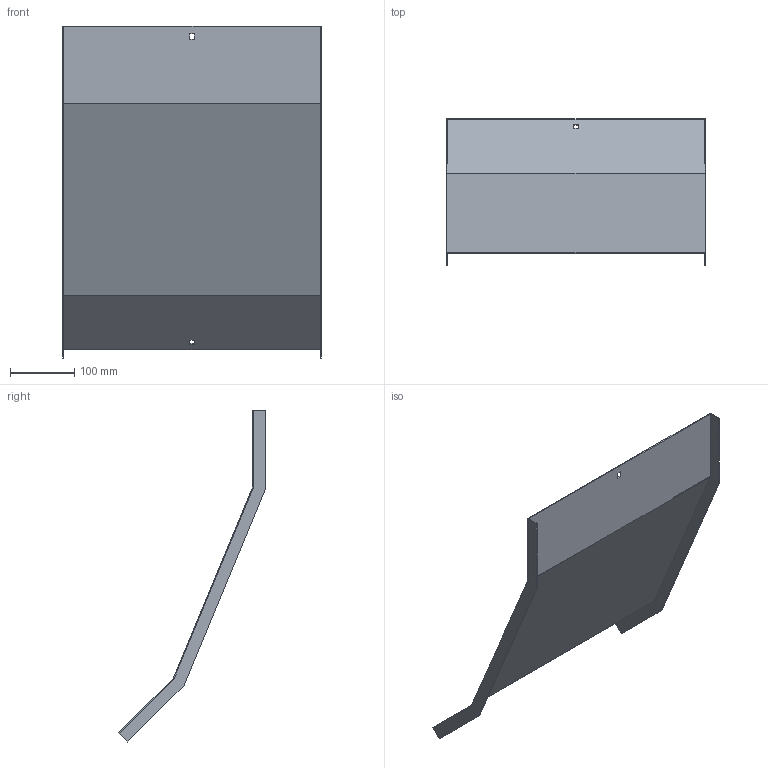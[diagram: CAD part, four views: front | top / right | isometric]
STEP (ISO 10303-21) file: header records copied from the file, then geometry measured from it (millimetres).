
FILE_DESCRIPTION (( 'STEP AP214' ), '1' );
FILE_NAME ('31N5R400_H150.step', '2025-02-21T14:28:38', ( '' ), ( '' ), 'SwSTEP 2.0', 'SolidWorks 2023', '' );
FILE_SCHEMA (( 'AUTOMOTIVE_DESIGN' ));
Length unit declared in the file: millimetre
Products named in the file (1): 31N5R400_H150
Bounding box: 403 x 228.46 x 517.41 mm (x, y, z)
Volume: 372239.9 mm3; surface area: 499467.9 mm2
Topology: 1 solids, 1 shells, 26 faces, 72 edges, 48 vertices
Faces by surface type: plane 26
Entity records: 847 total; most frequent: CARTESIAN_POINT 147, ORIENTED_EDGE 144, DIRECTION 126, LINE 72, EDGE_CURVE 72, VECTOR 72, VERTEX_POINT 48, EDGE_LOOP 30
